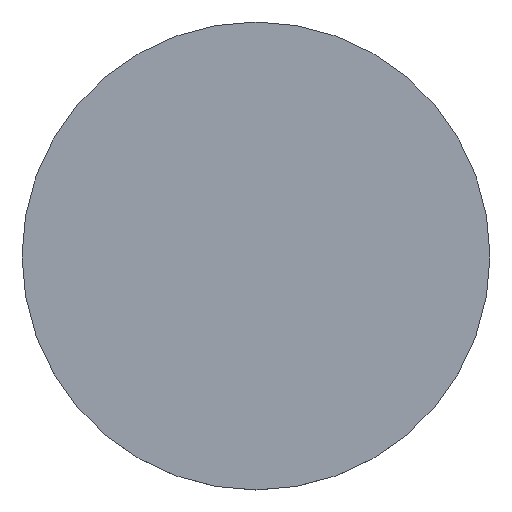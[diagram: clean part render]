
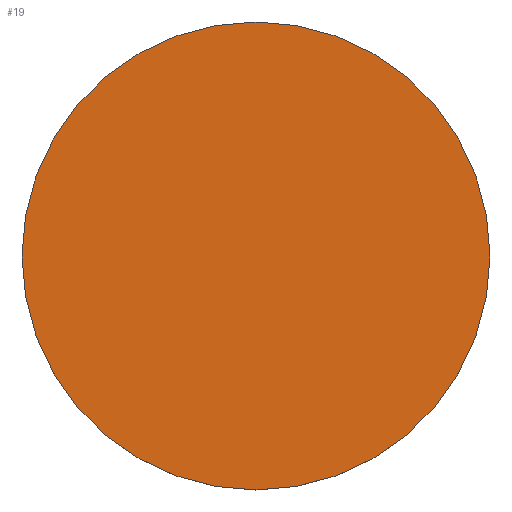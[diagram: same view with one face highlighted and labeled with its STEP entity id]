
A CAD part, top view. The second image highlights one B-rep face of the part: STEP entity #19.
In plain terms, the highlighted planar face has unit normal (0, 0, 1).
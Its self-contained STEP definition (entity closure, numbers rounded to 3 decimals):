
#19=ADVANCED_FACE('',(#101),#1511,.T.);
#101=FACE_OUTER_BOUND('',#183,.T.);
#183=EDGE_LOOP('',(#272,#273));
#272=ORIENTED_EDGE('',*,*,#734,.F.);
#273=ORIENTED_EDGE('',*,*,#730,.F.);
#730=EDGE_CURVE('',#1354,#1355,#1042,.T.);
#734=EDGE_CURVE('',#1355,#1354,#1044,.T.);
#1042=TRIMMED_CURVE($,#1198,(#2327),(#2328),.T.,.CARTESIAN.);
#1044=TRIMMED_CURVE($,#1200,(#2337),(#2338),.T.,.CARTESIAN.);
#1198=CIRCLE('',#1684,250.);
#1200=CIRCLE('',#1686,250.);
#1354=VERTEX_POINT('',#2322);
#1355=VERTEX_POINT('',#2323);
#1511=PLANE('',#1683);
#1683=AXIS2_PLACEMENT_3D('',#2321,#1924,$);
#1684=AXIS2_PLACEMENT_3D($,#2326,#1925,#1926);
#1686=AXIS2_PLACEMENT_3D($,#2336,#1929,#1930);
#1924=DIRECTION('',(0.,0.,1.));
#1925=DIRECTION('',(0.,0.,-1.));
#1926=DIRECTION('',(-1.,0.,0.));
#1929=DIRECTION('',(0.,0.,-1.));
#1930=DIRECTION('',(1.,0.,0.));
#2321=CARTESIAN_POINT('',(250.01,-250.01,350.));
#2322=CARTESIAN_POINT('',(-250.,0.,350.));
#2323=CARTESIAN_POINT('',(250.,0.,350.));
#2326=CARTESIAN_POINT('',(0.,0.,350.));
#2327=CARTESIAN_POINT('',(-250.,0.,350.));
#2328=CARTESIAN_POINT('',(250.,0.,350.));
#2336=CARTESIAN_POINT('',(0.,0.,350.));
#2337=CARTESIAN_POINT('',(250.,0.,350.));
#2338=CARTESIAN_POINT('',(-250.,0.,350.));
